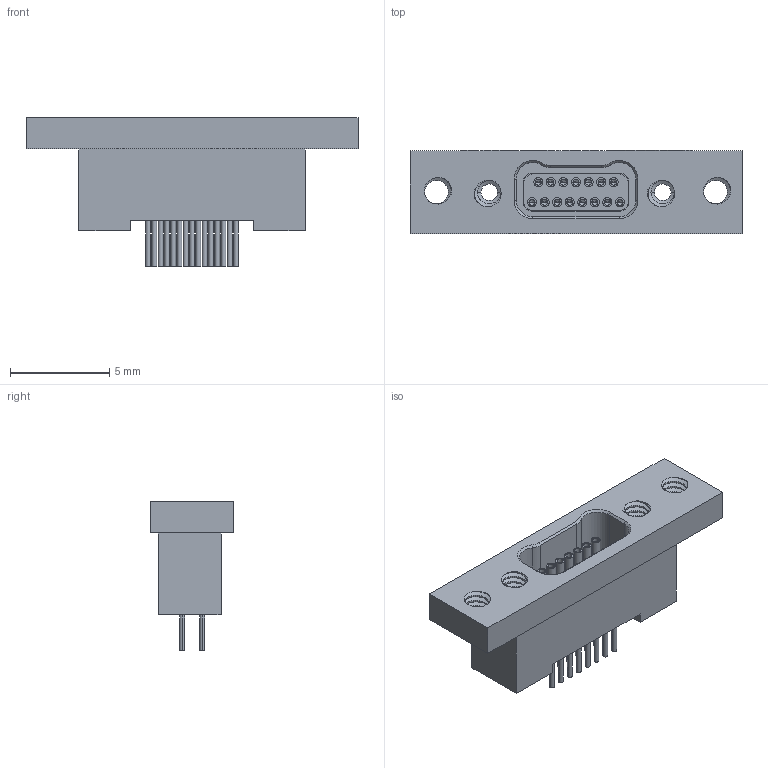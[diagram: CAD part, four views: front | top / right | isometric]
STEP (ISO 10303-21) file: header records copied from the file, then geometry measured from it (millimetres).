
FILE_DESCRIPTION (( 'STEP AP214' ), '1' );
FILE_NAME ('A29900-015 REV K.STEP', '2021-02-26T17:22:20', ( '' ), ( '' ), 'SwSTEP 2.0', 'SolidWorks 2019', '' );
FILE_SCHEMA (( 'AUTOMOTIVE_DESIGN' ));
Length unit declared in the file: inch
Products named in the file (1): A29900-015 REV K
Bounding box: 16.76 x 4.2 x 7.49 mm (x, y, z)
Volume: 193.3 mm3; surface area: 577.2 mm2
Topology: 1 solids, 1 shells, 447 faces, 1145 edges, 731 vertices
Faces by surface type: plane 179, cylinder 160, bspline 60, cone 48
Entity records: 25822 total; most frequent: CARTESIAN_POINT 9824, ORIENTED_EDGE 2230, DIRECTION 1889, EDGE_CURVE 1115, VERTEX_POINT 731, AXIS2_PLACEMENT_3D 632, LINE 625, VECTOR 625
